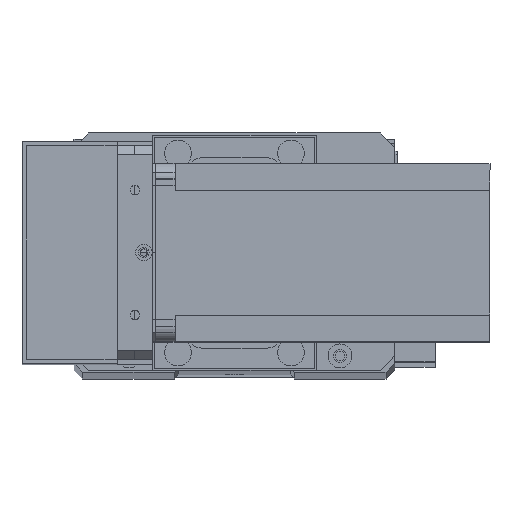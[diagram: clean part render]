
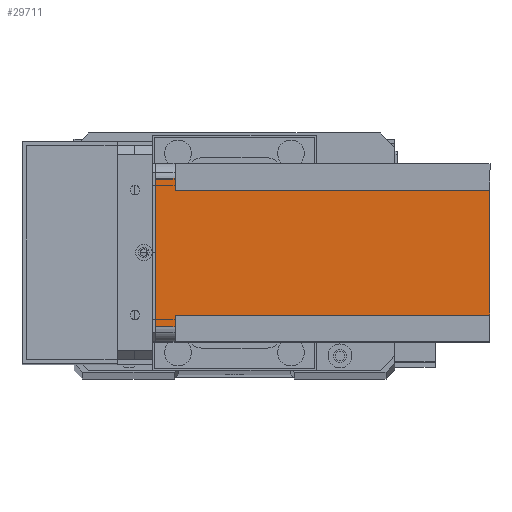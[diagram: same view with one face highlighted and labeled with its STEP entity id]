
A CAD part, top view. The second image highlights one B-rep face of the part: STEP entity #29711.
In plain terms, the highlighted planar face has unit normal (0, 0, 1) as drawn and (1, 0, 0) by its records, which use the part's own axes.
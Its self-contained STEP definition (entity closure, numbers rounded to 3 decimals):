
#755 = CARTESIAN_POINT ( 'NONE',  ( 60., 0., -112.5 ) ) ;
#908 = CARTESIAN_POINT ( 'NONE',  ( 60., 55., -112.5 ) ) ;
#1901 = DIRECTION ( 'NONE',  ( 0., 1., 0. ) ) ;
#2075 = LINE ( 'NONE', #30907, #20408 ) ;
#3846 = LINE ( 'NONE', #10160, #28531 ) ;
#4082 = VERTEX_POINT ( 'NONE', #12068 ) ;
#4651 = EDGE_LOOP ( 'NONE', ( #22811, #15593, #30116, #9764, #5960, #23890, #18115, #5939 ) ) ;
#4654 = LINE ( 'NONE', #27074, #11076 ) ;
#5251 = VECTOR ( 'NONE', #17856, 1000. ) ;
#5561 = PLANE ( 'NONE',  #24997 ) ;
#5623 = DIRECTION ( 'NONE',  ( 0., 0., 1. ) ) ;
#5663 = DIRECTION ( 'NONE',  ( 0., 0., -1. ) ) ;
#5939 = ORIENTED_EDGE ( 'NONE', *, *, #29737, .F. ) ;
#5960 = ORIENTED_EDGE ( 'NONE', *, *, #24891, .F. ) ;
#6151 = CARTESIAN_POINT ( 'NONE',  ( 60., 9., -6.5 ) ) ;
#6403 = EDGE_CURVE ( 'NONE', #30351, #4082, #9994, .T. ) ;
#6459 = CARTESIAN_POINT ( 'NONE',  ( 60., 5., 0. ) ) ;
#7101 = DIRECTION ( 'NONE',  ( 0., 1., 0. ) ) ;
#7979 = DIRECTION ( 'NONE',  ( 1., 0., 0. ) ) ;
#7987 = VERTEX_POINT ( 'NONE', #6151 ) ;
#8040 = FACE_OUTER_BOUND ( 'NONE', #4651, .T. ) ;
#9622 = CARTESIAN_POINT ( 'NONE',  ( 60., 51., -112.5 ) ) ;
#9764 = ORIENTED_EDGE ( 'NONE', *, *, #18884, .T. ) ;
#9907 = VECTOR ( 'NONE', #18232, 1000. ) ;
#9994 = LINE ( 'NONE', #908, #21143 ) ;
#10160 = CARTESIAN_POINT ( 'NONE',  ( 60., 60., -6.5 ) ) ;
#10438 = CARTESIAN_POINT ( 'NONE',  ( 60., 51., -112.5 ) ) ;
#10658 = VERTEX_POINT ( 'NONE', #30777 ) ;
#11076 = VECTOR ( 'NONE', #12831, 1000. ) ;
#11693 = LINE ( 'NONE', #22720, #5251 ) ;
#12068 = CARTESIAN_POINT ( 'NONE',  ( 60., 55., 0. ) ) ;
#12831 = DIRECTION ( 'NONE',  ( 0., -1., 0. ) ) ;
#13709 = VECTOR ( 'NONE', #5663, 1000. ) ;
#14739 = VECTOR ( 'NONE', #1901, 1000. ) ;
#14968 = DIRECTION ( 'NONE',  ( 0., -1., 0. ) ) ;
#15162 = VERTEX_POINT ( 'NONE', #9622 ) ;
#15593 = ORIENTED_EDGE ( 'NONE', *, *, #6403, .T. ) ;
#16178 = CARTESIAN_POINT ( 'NONE',  ( 60., 0., 0. ) ) ;
#17321 = CARTESIAN_POINT ( 'NONE',  ( 60., 55., -6.5 ) ) ;
#17856 = DIRECTION ( 'NONE',  ( 0., 0., 1. ) ) ;
#18115 = ORIENTED_EDGE ( 'NONE', *, *, #24301, .T. ) ;
#18232 = DIRECTION ( 'NONE',  ( 0., 0., -1. ) ) ;
#18603 = EDGE_CURVE ( 'NONE', #30351, #30475, #3846, .T. ) ;
#18884 = EDGE_CURVE ( 'NONE', #21701, #30753, #22539, .T. ) ;
#19415 = EDGE_CURVE ( 'NONE', #21701, #4082, #20275, .T. ) ;
#20009 = LINE ( 'NONE', #10438, #13709 ) ;
#20275 = LINE ( 'NONE', #16178, #14739 ) ;
#20408 = VECTOR ( 'NONE', #7101, 1000. ) ;
#20450 = EDGE_CURVE ( 'NONE', #10658, #7987, #11693, .T. ) ;
#20517 = CARTESIAN_POINT ( 'NONE',  ( 60., 5., -112.5 ) ) ;
#21128 = CARTESIAN_POINT ( 'NONE',  ( 60., 5., -6.5 ) ) ;
#21143 = VECTOR ( 'NONE', #5623, 1000. ) ;
#21701 = VERTEX_POINT ( 'NONE', #6459 ) ;
#22539 = LINE ( 'NONE', #20517, #9907 ) ;
#22720 = CARTESIAN_POINT ( 'NONE',  ( 60., 9., -112.5 ) ) ;
#22811 = ORIENTED_EDGE ( 'NONE', *, *, #18603, .F. ) ;
#23890 = ORIENTED_EDGE ( 'NONE', *, *, #20450, .F. ) ;
#24301 = EDGE_CURVE ( 'NONE', #10658, #15162, #2075, .T. ) ;
#24679 = DIRECTION ( 'NONE',  ( 0., 1., 0. ) ) ;
#24891 = EDGE_CURVE ( 'NONE', #7987, #30753, #4654, .T. ) ;
#24893 = CARTESIAN_POINT ( 'NONE',  ( 60., 51., -6.5 ) ) ;
#24997 = AXIS2_PLACEMENT_3D ( 'NONE', #755, #7979, #24679 ) ;
#27074 = CARTESIAN_POINT ( 'NONE',  ( 60., 0., -6.5 ) ) ;
#28531 = VECTOR ( 'NONE', #14968, 1000. ) ;
#29711 = ADVANCED_FACE ( 'NONE', ( #8040 ), #5561, .T. ) ;
#29737 = EDGE_CURVE ( 'NONE', #30475, #15162, #20009, .T. ) ;
#30116 = ORIENTED_EDGE ( 'NONE', *, *, #19415, .F. ) ;
#30351 = VERTEX_POINT ( 'NONE', #17321 ) ;
#30475 = VERTEX_POINT ( 'NONE', #24893 ) ;
#30753 = VERTEX_POINT ( 'NONE', #21128 ) ;
#30777 = CARTESIAN_POINT ( 'NONE',  ( 60., 9., -112.5 ) ) ;
#30907 = CARTESIAN_POINT ( 'NONE',  ( 60., 0., -112.5 ) ) ;
